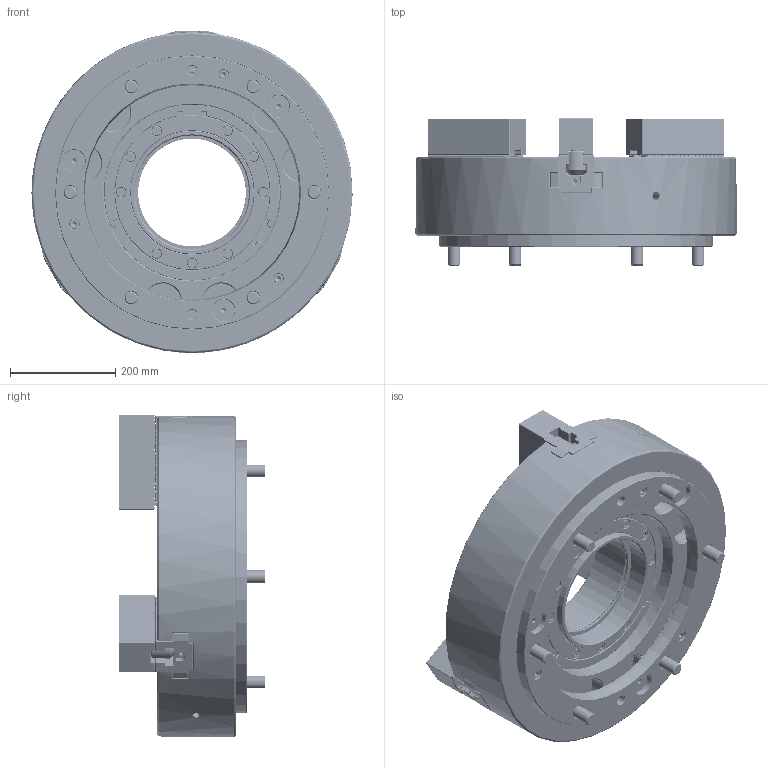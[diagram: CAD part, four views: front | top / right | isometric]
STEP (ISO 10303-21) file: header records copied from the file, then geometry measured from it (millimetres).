
FILE_DESCRIPTION(/* description */ (''),/* implementation_level */ '2;1');
FILE_NAME(/* name */ 'C:\Users\034\Desktop\需重新取代\OP-224-A20.stp',/* time_stamp */ '2024-09-04T13:13:36+08:00',/* author */ ('034'),/* organization */ (''),/* preprocessor_version */ 'ST-DEVELOPER v16.13',/* originating_system */ 'Autodesk Inventor 2018',/* authorisation */ '');
FILE_SCHEMA (('AUTOMOTIVE_DESIGN { 1 0 10303 214 3 1 1 }'));
Products named in the file (1): 零件24
Bounding box: 609.99 x 279.28 x 611.97 mm (x, y, z)
Volume: 38881879.6 mm3; surface area: 1900554.8 mm2
Topology: 1 solids, 51 shells, 6869 faces, 22151 edges, 14157 vertices
Faces by surface type: plane 4028, cylinder 1803, cone 468, bspline 423, torus 120, sphere 27
Full cylindrical faces by diameter (mm): 3 x30, 3.4 x6, 4 x24, 4.5 x6, 4.8 x6, 5.1 x6, 5.2 x3, 6 x9, 7 x6, 7.53 x6, 10 x6, 10.3 x5, 11 x6, 12 x3, 13 x3, 14.1 x11, 17.6 x6, 18 x12, 19 x14, 20 x9, 21 x9, 24 x12, 26 x18, 30 x11, 32 x9, 36 x6, 38 x6, 42.3 x3, 60 x2, 70 x6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
Entity records: 242786 total; most frequent: CARTESIAN_POINT 51866, ORIENTED_EDGE 42250, DIRECTION 37209, EDGE_CURVE 21125, LINE 15221, VECTOR 15221, VERTEX_POINT 13779, AXIS2_PLACEMENT_3D 10994
